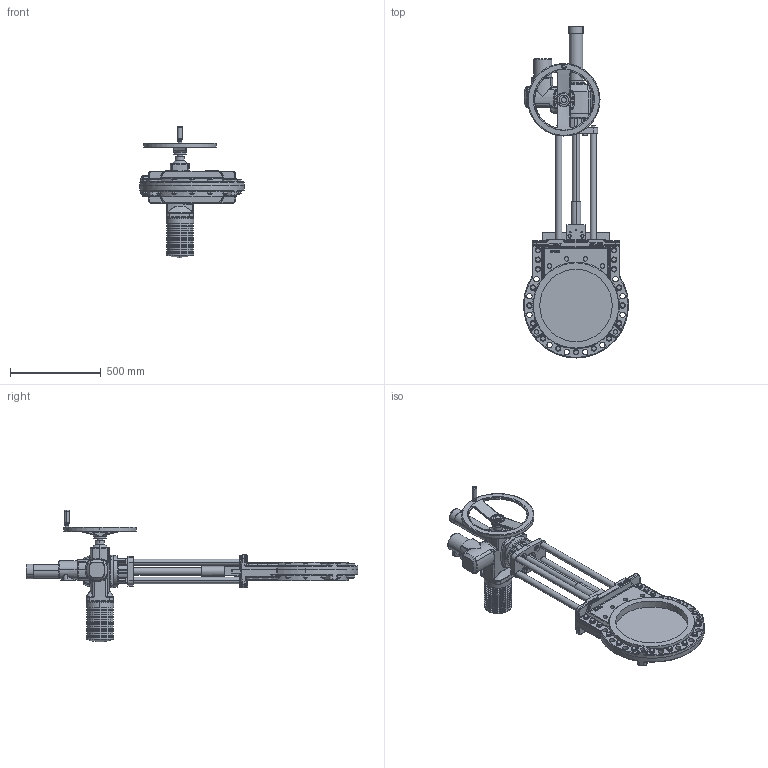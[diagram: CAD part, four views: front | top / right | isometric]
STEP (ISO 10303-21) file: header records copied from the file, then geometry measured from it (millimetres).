
FILE_DESCRIPTION (( 'STEP AP214' ), '1' );
FILE_NAME ('MGE DN 0400 PN16 (SA 14.6).STEP', '2015-09-23T08:48:53', ( 'admin' ), ( 'Hewlett-Packard Company' ), 'SwSTEP 2.0', 'SolidWorks 2013', '' );
FILE_SCHEMA (( 'AUTOMOTIVE_DESIGN' ));
Length unit declared in the file: millimetre
Products named in the file (1): MGE DN 0400 PN16 (SA 14.6)
Bounding box: 580 x 1834 x 727 mm (x, y, z)
Volume: 40033928.6 mm3; surface area: 2864596.2 mm2
Topology: 92 solids, 104 shells, 3351 faces, 7742 edges, 4679 vertices
Faces by surface type: plane 1184, cylinder 947, cone 587, bspline 351, torus 242, sphere 40
Entity records: 159152 total; most frequent: CARTESIAN_POINT 47372, ORIENTED_EDGE 15352, DIRECTION 15304, EDGE_CURVE 7676, AXIS2_PLACEMENT_3D 6173, VERTEX_POINT 4679, EDGE_LOOP 3723, UNCERTAINTY_MEASURE_WITH_UNIT 3443
